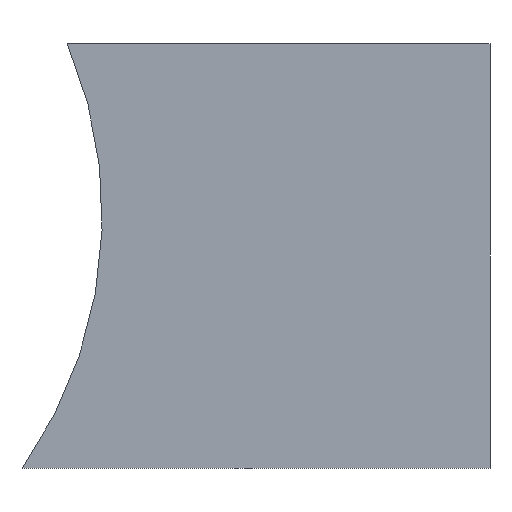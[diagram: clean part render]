
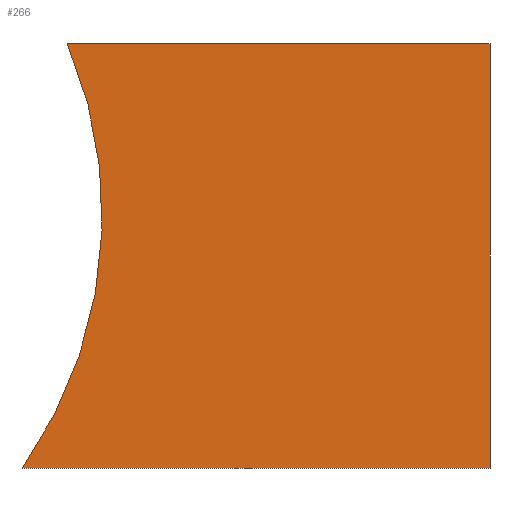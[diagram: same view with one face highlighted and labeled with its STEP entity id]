
A CAD part, front view. The second image highlights one B-rep face of the part: STEP entity #266.
In plain terms, the highlighted planar face has unit normal (0, -1, 0).
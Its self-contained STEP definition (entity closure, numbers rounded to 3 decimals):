
#32 = PLANE('',#33);
#33 = AXIS2_PLACEMENT_3D('',#34,#35,#36);
#34 = CARTESIAN_POINT('',(285.,194.,25.));
#35 = DIRECTION('',(-0.,0.,1.));
#36 = DIRECTION('',(1.,0.,0.));
#57 = VERTEX_POINT('',#58);
#58 = CARTESIAN_POINT('',(291.184,190.,25.));
#72 = CYLINDRICAL_SURFACE('',#73,130.);
#73 = AXIS2_PLACEMENT_3D('',#74,#75,#76);
#74 = CARTESIAN_POINT('',(185.,-240.,100.));
#75 = DIRECTION('',(0.,1.,0.));
#76 = DIRECTION('',(0.,-0.,1.));
#83 = EDGE_CURVE('',#57,#84,#86,.T.);
#84 = VERTEX_POINT('',#85);
#85 = CARTESIAN_POINT('',(430.,190.,25.));
#86 = SURFACE_CURVE('',#87,(#91,#98),.PCURVE_S1.);
#87 = LINE('',#88,#89);
#88 = CARTESIAN_POINT('',(285.,190.,25.));
#89 = VECTOR('',#90,1.);
#90 = DIRECTION('',(1.,0.,0.));
#91 = PCURVE('',#32,#92);
#92 = DEFINITIONAL_REPRESENTATION('',(#93),#97);
#93 = LINE('',#94,#95);
#94 = CARTESIAN_POINT('',(0.,-4.));
#95 = VECTOR('',#96,1.);
#96 = DIRECTION('',(1.,0.));
#97 = ( GEOMETRIC_REPRESENTATION_CONTEXT(2) 
PARAMETRIC_REPRESENTATION_CONTEXT() REPRESENTATION_CONTEXT('2D SPACE',''
  ) );
#98 = PCURVE('',#99,#104);
#99 = PLANE('',#100);
#100 = AXIS2_PLACEMENT_3D('',#101,#102,#103);
#101 = CARTESIAN_POINT('',(465.091,190.,87.829));
#102 = DIRECTION('',(-0.,-1.,-0.));
#103 = DIRECTION('',(0.,0.,-1.));
#104 = DEFINITIONAL_REPRESENTATION('',(#105),#109);
#105 = LINE('',#106,#107);
#106 = CARTESIAN_POINT('',(62.829,-180.091));
#107 = VECTOR('',#108,1.);
#108 = DIRECTION('',(0.,1.));
#109 = ( GEOMETRIC_REPRESENTATION_CONTEXT(2) 
PARAMETRIC_REPRESENTATION_CONTEXT() REPRESENTATION_CONTEXT('2D SPACE',''
  ) );
#125 = PLANE('',#126);
#126 = AXIS2_PLACEMENT_3D('',#127,#128,#129);
#127 = CARTESIAN_POINT('',(430.,-210.,0.));
#128 = DIRECTION('',(1.,0.,-0.));
#129 = DIRECTION('',(0.,0.,1.));
#179 = PLANE('',#180);
#180 = AXIS2_PLACEMENT_3D('',#181,#182,#183);
#181 = CARTESIAN_POINT('',(622.,194.,151.));
#182 = DIRECTION('',(-0.,-0.,-1.));
#183 = DIRECTION('',(-1.,0.,0.));
#221 = EDGE_CURVE('',#84,#222,#224,.T.);
#222 = VERTEX_POINT('',#223);
#223 = CARTESIAN_POINT('',(430.,190.,151.));
#224 = SURFACE_CURVE('',#225,(#229,#236),.PCURVE_S1.);
#225 = LINE('',#226,#227);
#226 = CARTESIAN_POINT('',(430.,190.,43.915));
#227 = VECTOR('',#228,1.);
#228 = DIRECTION('',(0.,-0.,1.));
#229 = PCURVE('',#125,#230);
#230 = DEFINITIONAL_REPRESENTATION('',(#231),#235);
#231 = LINE('',#232,#233);
#232 = CARTESIAN_POINT('',(43.915,-400.));
#233 = VECTOR('',#234,1.);
#234 = DIRECTION('',(1.,0.));
#235 = ( GEOMETRIC_REPRESENTATION_CONTEXT(2) 
PARAMETRIC_REPRESENTATION_CONTEXT() REPRESENTATION_CONTEXT('2D SPACE',''
  ) );
#236 = PCURVE('',#99,#237);
#237 = DEFINITIONAL_REPRESENTATION('',(#238),#242);
#238 = LINE('',#239,#240);
#239 = CARTESIAN_POINT('',(43.915,-35.091));
#240 = VECTOR('',#241,1.);
#241 = DIRECTION('',(-1.,0.));
#242 = ( GEOMETRIC_REPRESENTATION_CONTEXT(2) 
PARAMETRIC_REPRESENTATION_CONTEXT() REPRESENTATION_CONTEXT('2D SPACE',''
  ) );
#266 = ADVANCED_FACE('',(#267),#99,.T.);
#267 = FACE_BOUND('',#268,.T.);
#268 = EDGE_LOOP('',(#269,#270,#293,#319));
#269 = ORIENTED_EDGE('',*,*,#221,.T.);
#270 = ORIENTED_EDGE('',*,*,#271,.T.);
#271 = EDGE_CURVE('',#222,#272,#274,.T.);
#272 = VERTEX_POINT('',#273);
#273 = CARTESIAN_POINT('',(304.578,190.,151.));
#274 = SURFACE_CURVE('',#275,(#279,#286),.PCURVE_S1.);
#275 = LINE('',#276,#277);
#276 = CARTESIAN_POINT('',(622.,190.,151.));
#277 = VECTOR('',#278,1.);
#278 = DIRECTION('',(-1.,0.,0.));
#279 = PCURVE('',#99,#280);
#280 = DEFINITIONAL_REPRESENTATION('',(#281),#285);
#281 = LINE('',#282,#283);
#282 = CARTESIAN_POINT('',(-63.171,156.909));
#283 = VECTOR('',#284,1.);
#284 = DIRECTION('',(0.,-1.));
#285 = ( GEOMETRIC_REPRESENTATION_CONTEXT(2) 
PARAMETRIC_REPRESENTATION_CONTEXT() REPRESENTATION_CONTEXT('2D SPACE',''
  ) );
#286 = PCURVE('',#179,#287);
#287 = DEFINITIONAL_REPRESENTATION('',(#288),#292);
#288 = LINE('',#289,#290);
#289 = CARTESIAN_POINT('',(0.,-4.));
#290 = VECTOR('',#291,1.);
#291 = DIRECTION('',(1.,0.));
#292 = ( GEOMETRIC_REPRESENTATION_CONTEXT(2) 
PARAMETRIC_REPRESENTATION_CONTEXT() REPRESENTATION_CONTEXT('2D SPACE',''
  ) );
#293 = ORIENTED_EDGE('',*,*,#294,.T.);
#294 = EDGE_CURVE('',#272,#57,#295,.T.);
#295 = SURFACE_CURVE('',#296,(#301,#312),.PCURVE_S1.);
#296 = CIRCLE('',#297,130.);
#297 = AXIS2_PLACEMENT_3D('',#298,#299,#300);
#298 = CARTESIAN_POINT('',(185.,190.,100.));
#299 = DIRECTION('',(0.,1.,0.));
#300 = DIRECTION('',(0.,-0.,1.));
#301 = PCURVE('',#99,#302);
#302 = DEFINITIONAL_REPRESENTATION('',(#303),#311);
#303 = ( BOUNDED_CURVE() B_SPLINE_CURVE(2,(#304,#305,#306,#307,#308,#309
,#310),.UNSPECIFIED.,.T.,.F.) B_SPLINE_CURVE_WITH_KNOTS((1,2,2,2,2,1),(
    -2.094,0.,2.094,4.189,6.283,
8.378),.UNSPECIFIED.) CURVE() GEOMETRIC_REPRESENTATION_ITEM() 
RATIONAL_B_SPLINE_CURVE((1.,0.5,1.,0.5,1.,0.5,1.)) REPRESENTATION_ITEM(
  '') );
#304 = CARTESIAN_POINT('',(-142.171,-280.091));
#305 = CARTESIAN_POINT('',(-142.171,-54.925));
#306 = CARTESIAN_POINT('',(52.829,-167.508));
#307 = CARTESIAN_POINT('',(247.829,-280.091));
#308 = CARTESIAN_POINT('',(52.829,-392.675));
#309 = CARTESIAN_POINT('',(-142.171,-505.258));
#310 = CARTESIAN_POINT('',(-142.171,-280.091));
#311 = ( GEOMETRIC_REPRESENTATION_CONTEXT(2) 
PARAMETRIC_REPRESENTATION_CONTEXT() REPRESENTATION_CONTEXT('2D SPACE',''
  ) );
#312 = PCURVE('',#72,#313);
#313 = DEFINITIONAL_REPRESENTATION('',(#314),#318);
#314 = LINE('',#315,#316);
#315 = CARTESIAN_POINT('',(0.,430.));
#316 = VECTOR('',#317,1.);
#317 = DIRECTION('',(1.,0.));
#318 = ( GEOMETRIC_REPRESENTATION_CONTEXT(2) 
PARAMETRIC_REPRESENTATION_CONTEXT() REPRESENTATION_CONTEXT('2D SPACE',''
  ) );
#319 = ORIENTED_EDGE('',*,*,#83,.T.);
